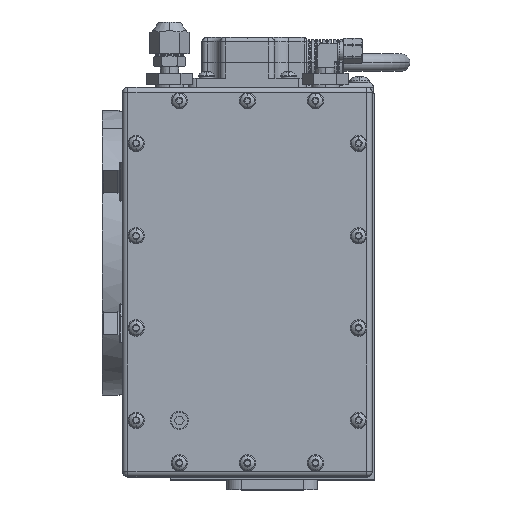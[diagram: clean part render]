
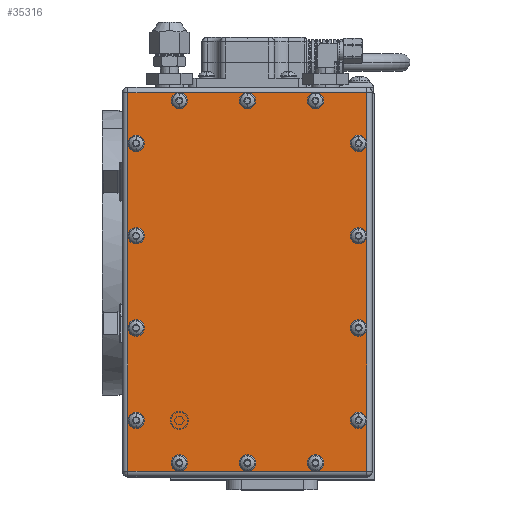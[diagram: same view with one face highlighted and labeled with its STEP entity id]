
A CAD part, top view. The second image highlights one B-rep face of the part: STEP entity #35316.
In plain terms, the highlighted planar face has unit normal (0, 0, 1).
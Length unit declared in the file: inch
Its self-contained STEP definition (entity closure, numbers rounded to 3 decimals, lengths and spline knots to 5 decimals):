
#6477 = VERTEX_POINT ( 'NONE', #51408 ) ;
#8298 = LINE ( 'NONE', #53404, #20164 ) ;
#9235 = DIRECTION ( 'NONE',  ( 0., -1., 0. ) ) ;
#10067 = VERTEX_POINT ( 'NONE', #29678 ) ;
#11874 = DIRECTION ( 'NONE',  ( 0., 1., 0. ) ) ;
#14327 = AXIS2_PLACEMENT_3D ( 'NONE', #42974, #28883, #72571 ) ;
#17694 = EDGE_CURVE ( 'NONE', #6477, #77194, #86308, .T. ) ;
#20164 = VECTOR ( 'NONE', #9235, 39.37008 ) ;
#20649 = PLANE ( 'NONE',  #14327 ) ;
#26067 = EDGE_LOOP ( 'NONE', ( #29614, #32600, #30922, #74329 ) ) ;
#28040 = CARTESIAN_POINT ( 'NONE',  ( 0., -4.17, 0.25 ) ) ;
#28883 = DIRECTION ( 'NONE',  ( 0., 0., -1. ) ) ;
#29614 = ORIENTED_EDGE ( 'NONE', *, *, #68920, .T. ) ;
#29678 = CARTESIAN_POINT ( 'NONE',  ( 2.63, -4.17, 0.25 ) ) ;
#30922 = ORIENTED_EDGE ( 'NONE', *, *, #17694, .T. ) ;
#32600 = ORIENTED_EDGE ( 'NONE', *, *, #92073, .T. ) ;
#35149 = CARTESIAN_POINT ( 'NONE',  ( -2.63, 4.17, 0.25 ) ) ;
#35316 = ADVANCED_FACE ( 'NONE', ( #87113 ), #20649, .F. ) ;
#36961 = VECTOR ( 'NONE', #72675, 39.37008 ) ;
#40971 = LINE ( 'NONE', #55116, #41400 ) ;
#41400 = VECTOR ( 'NONE', #11874, 39.37008 ) ;
#42974 = CARTESIAN_POINT ( 'NONE',  ( 0., 0., 0.25 ) ) ;
#51408 = CARTESIAN_POINT ( 'NONE',  ( 2.63, 4.17, 0.25 ) ) ;
#53404 = CARTESIAN_POINT ( 'NONE',  ( -2.63, 0., 0.25 ) ) ;
#55116 = CARTESIAN_POINT ( 'NONE',  ( 2.63, 0., 0.25 ) ) ;
#55322 = DIRECTION ( 'NONE',  ( -1., 0., 0. ) ) ;
#66644 = CARTESIAN_POINT ( 'NONE',  ( -2.63, -4.17, 0.25 ) ) ;
#67098 = VERTEX_POINT ( 'NONE', #66644 ) ;
#68920 = EDGE_CURVE ( 'NONE', #67098, #10067, #71696, .T. ) ;
#71696 = LINE ( 'NONE', #28040, #36961 ) ;
#72571 = DIRECTION ( 'NONE',  ( -1., 0., 0. ) ) ;
#72675 = DIRECTION ( 'NONE',  ( 1., 0., 0. ) ) ;
#74329 = ORIENTED_EDGE ( 'NONE', *, *, #94225, .T. ) ;
#77194 = VERTEX_POINT ( 'NONE', #35149 ) ;
#79043 = CARTESIAN_POINT ( 'NONE',  ( 0., 4.17, 0.25 ) ) ;
#86308 = LINE ( 'NONE', #79043, #93040 ) ;
#87113 = FACE_OUTER_BOUND ( 'NONE', #26067, .T. ) ;
#92073 = EDGE_CURVE ( 'NONE', #10067, #6477, #40971, .T. ) ;
#93040 = VECTOR ( 'NONE', #55322, 39.37008 ) ;
#94225 = EDGE_CURVE ( 'NONE', #77194, #67098, #8298, .T. ) ;
